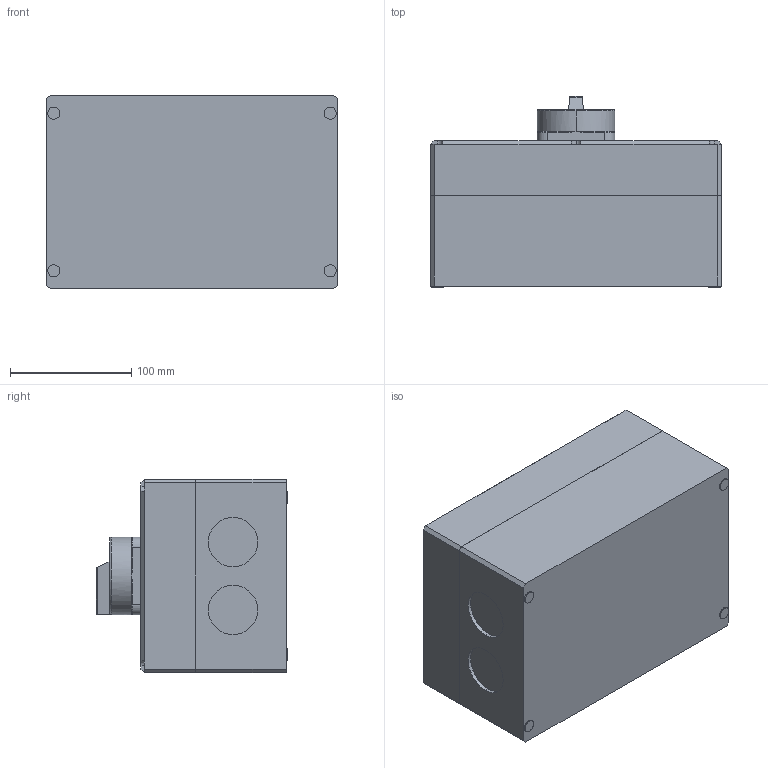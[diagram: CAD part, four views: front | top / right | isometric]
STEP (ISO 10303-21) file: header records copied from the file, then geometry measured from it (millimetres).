
FILE_DESCRIPTION (( 'STEP AP203' ), '1' );
FILE_NAME ('LTS63_80 PFH4 A6.STEP', '2014-05-12T09:13:22', ( '' ), ( '' ), 'SwSTEP 2.0', 'SolidWorks 2014', '' );
FILE_SCHEMA (( 'CONFIG_CONTROL_DESIGN' ));
Length unit declared in the file: millimetre
Products named in the file (5): Gehäuse Oberteil PF3; Gehäuse Unterteil PF3; Gehäuse PF3; SV4_64x64; LTS63_80 PFH4 A6
Assembly tree (4 placements, depth 3):
  LTS63_80 PFH4 A6
    Gehäuse PF3
      Gehäuse Unterteil PF3
      Gehäuse Oberteil PF3
    SV4_64x64
Bounding box: 240 x 157.7 x 160 mm (x, y, z)
Volume: 4654382 mm3; surface area: 270740.6 mm2
Topology: 3 solids, 3 shells, 153 faces, 385 edges, 238 vertices
Faces by surface type: plane 75, cylinder 60, bspline 10, torus 8
Entity records: 5388 total; most frequent: CARTESIAN_POINT 1211, DIRECTION 795, ORIENTED_EDGE 754, EDGE_CURVE 377, AXIS2_PLACEMENT_3D 298, VERTEX_POINT 238, VECTOR 199, LINE 199
